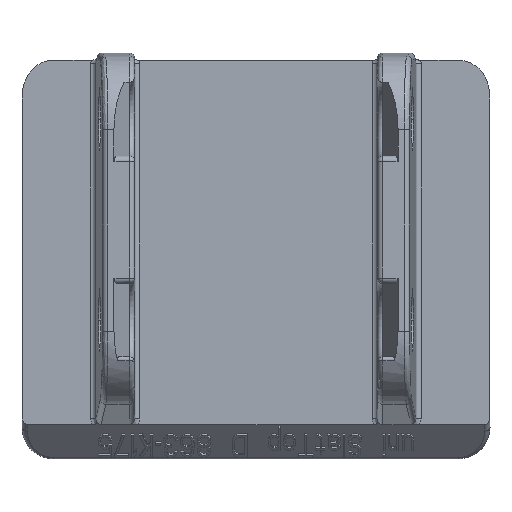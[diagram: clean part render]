
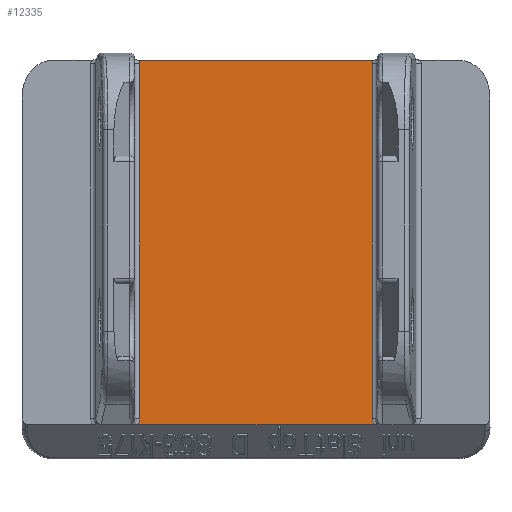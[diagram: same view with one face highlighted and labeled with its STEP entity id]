
A CAD part, front view. The second image highlights one B-rep face of the part: STEP entity #12335.
In plain terms, the highlighted planar face has unit normal (0, -1, 0).
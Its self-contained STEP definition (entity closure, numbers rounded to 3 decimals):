
#2419=DIRECTION('',(0.,0.,1.));
#2420=VECTOR('',#2419,33.733);
#2421=CARTESIAN_POINT('',(11.05,0.,
-18.891));
#2422=LINE('',#2421,#2420);
#2423=CARTESIAN_POINT('',(11.234,0.,
-19.477));
#2424=CARTESIAN_POINT('',(11.194,0.,
-19.42));
#2425=CARTESIAN_POINT('',(11.127,0.,
-19.3));
#2426=CARTESIAN_POINT('',(11.064,0.,
-19.099));
#2427=CARTESIAN_POINT('',(11.05,0.,
-18.962));
#2428=CARTESIAN_POINT('',(11.05,0.,
-18.891));
#2430=DIRECTION('',(-1.,0.,0.));
#2431=VECTOR('',#2430,22.468);
#2432=CARTESIAN_POINT('',(11.234,0.,
-19.477));
#2433=LINE('',#2432,#2431);
#2434=CARTESIAN_POINT('',(-11.05,0.,
-18.891));
#2435=CARTESIAN_POINT('',(-11.05,0.,
-18.962));
#2436=CARTESIAN_POINT('',(-11.064,0.,
-19.099));
#2437=CARTESIAN_POINT('',(-11.127,0.,
-19.3));
#2438=CARTESIAN_POINT('',(-11.194,0.,
-19.42));
#2439=CARTESIAN_POINT('',(-11.234,0.,
-19.477));
#2441=DIRECTION('',(0.,0.,-1.));
#2442=VECTOR('',#2441,33.733);
#2443=CARTESIAN_POINT('',(-11.05,0.,
14.842));
#2444=LINE('',#2443,#2442);
#2445=CARTESIAN_POINT('',(-11.096,0.,
15.165));
#2446=CARTESIAN_POINT('',(-11.081,0.,
15.113));
#2447=CARTESIAN_POINT('',(-11.058,0.,
15.008));
#2448=CARTESIAN_POINT('',(-11.05,0.,
14.898));
#2449=CARTESIAN_POINT('',(-11.05,0.,
14.842));
#2451=DIRECTION('',(1.,0.,0.));
#2452=VECTOR('',#2451,22.192);
#2453=CARTESIAN_POINT('',(-11.096,0.,
15.165));
#2454=LINE('',#2453,#2452);
#2455=CARTESIAN_POINT('',(11.05,0.,
14.842));
#2456=CARTESIAN_POINT('',(11.05,0.,
14.898));
#2457=CARTESIAN_POINT('',(11.058,0.,
15.008));
#2458=CARTESIAN_POINT('',(11.081,0.,15.113));
#2459=CARTESIAN_POINT('',(11.096,0.,15.165));
#8566=VERTEX_POINT('',#2434);
#8567=VERTEX_POINT('',#2439);
#8573=CARTESIAN_POINT('',(-11.05,0.,
14.842));
#8574=VERTEX_POINT('',#8573);
#8688=CARTESIAN_POINT('',(11.05,0.,
-18.891));
#8689=CARTESIAN_POINT('',(11.05,0.,
14.842));
#8690=VERTEX_POINT('',#8688);
#8691=VERTEX_POINT('',#8689);
#8692=VERTEX_POINT('',#2423);
#10977=VERTEX_POINT('',#2445);
#10978=VERTEX_POINT('',#2459);
#12313=CARTESIAN_POINT('',(-22.25,0.,15.165));
#12314=DIRECTION('',(0.,-1.,0.));
#12315=DIRECTION('',(0.,0.,-1.));
#12316=AXIS2_PLACEMENT_3D('',#12313,#12314,#12315);
#12317=PLANE('',#12316);
#12319=ORIENTED_EDGE('',*,*,#12318,.F.);
#12321=ORIENTED_EDGE('',*,*,#12320,.F.);
#12322=ORIENTED_EDGE('',*,*,#11015,.T.);
#12324=ORIENTED_EDGE('',*,*,#12323,.F.);
#12326=ORIENTED_EDGE('',*,*,#12325,.F.);
#12328=ORIENTED_EDGE('',*,*,#12327,.F.);
#12330=ORIENTED_EDGE('',*,*,#12329,.T.);
#12332=ORIENTED_EDGE('',*,*,#12331,.F.);
#12333=EDGE_LOOP('',(#12319,#12321,#12322,#12324,#12326,#12328,#12330,#12332));
#12334=FACE_OUTER_BOUND('',#12333,.F.);
#12335=ADVANCED_FACE('',(#12334),#12317,.T.);
#2429=B_SPLINE_CURVE_WITH_KNOTS('',3,(#2423,#2424,#2425,#2426,#2427,#2428),
.UNSPECIFIED.,.F.,.F.,(4,1,1,4),(0.,0.333,0.667,1.),
.UNSPECIFIED.);
#2440=B_SPLINE_CURVE_WITH_KNOTS('',3,(#2434,#2435,#2436,#2437,#2438,#2439),
.UNSPECIFIED.,.F.,.F.,(4,1,1,4),(0.,0.333,0.667,1.),
.UNSPECIFIED.);
#2450=B_SPLINE_CURVE_WITH_KNOTS('',3,(#2445,#2446,#2447,#2448,#2449),
.UNSPECIFIED.,.F.,.F.,(4,1,4),(0.,0.5,1.),.UNSPECIFIED.);
#2460=B_SPLINE_CURVE_WITH_KNOTS('',3,(#2455,#2456,#2457,#2458,#2459),
.UNSPECIFIED.,.F.,.F.,(4,1,4),(0.,0.5,1.),.UNSPECIFIED.);
#11015=EDGE_CURVE('',#8692,#8567,#2433,.T.);
#12318=EDGE_CURVE('',#8690,#8691,#2422,.T.);
#12320=EDGE_CURVE('',#8692,#8690,#2429,.T.);
#12323=EDGE_CURVE('',#8566,#8567,#2440,.T.);
#12325=EDGE_CURVE('',#8574,#8566,#2444,.T.);
#12327=EDGE_CURVE('',#10977,#8574,#2450,.T.);
#12329=EDGE_CURVE('',#10977,#10978,#2454,.T.);
#12331=EDGE_CURVE('',#8691,#10978,#2460,.T.);
